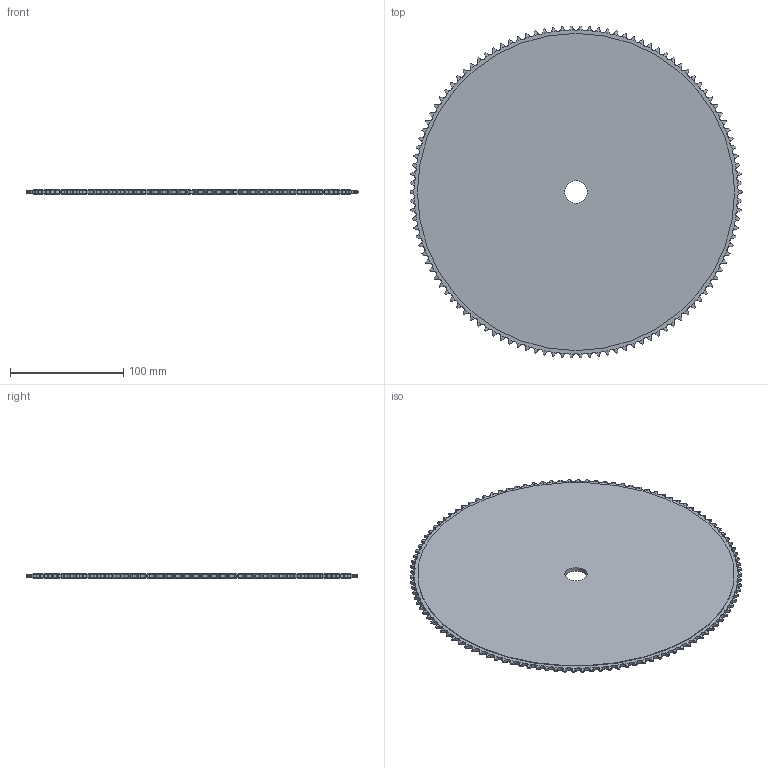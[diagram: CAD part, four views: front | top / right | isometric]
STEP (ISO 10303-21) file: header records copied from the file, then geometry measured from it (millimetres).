
FILE_DESCRIPTION((''),'2;1');
FILE_NAME('500-081-0114_PRT','2021-02-12T',('Brieden'),('Brieden'),'PRO/ENGINEER BY PARAMETRIC TECHNOLOGY CORPORATION, 2010160','PRO/ENGINEER BY PARAMETRIC TECHNOLOGY CORPORATION, 2010160','');
FILE_SCHEMA(('AUTOMOTIVE_DESIGN { 1 0 10303 214 1 1 1 1 }'));
Length unit declared in the file: millimetre
Products named in the file (1): 500-081-0114_PRT
Bounding box: 293.45 x 293.36 x 4 mm (x, y, z)
Volume: 255418.7 mm3; surface area: 134765 mm2
Topology: 1 solids, 1 shells, 694 faces, 2070 edges, 1380 vertices
Faces by surface type: cylinder 462, torus 228, plane 4
Entity records: 33452 total; most frequent: CARTESIAN_POINT 9629, ORIENTED_EDGE 4140, DIRECTION 3242, PRESENTATION_STYLE_ASSIGNMENT 2071, STYLED_ITEM 2071, CURVE_STYLE 2070, EDGE_CURVE 2070, AXIS2_PLACEMENT_3D 1390
